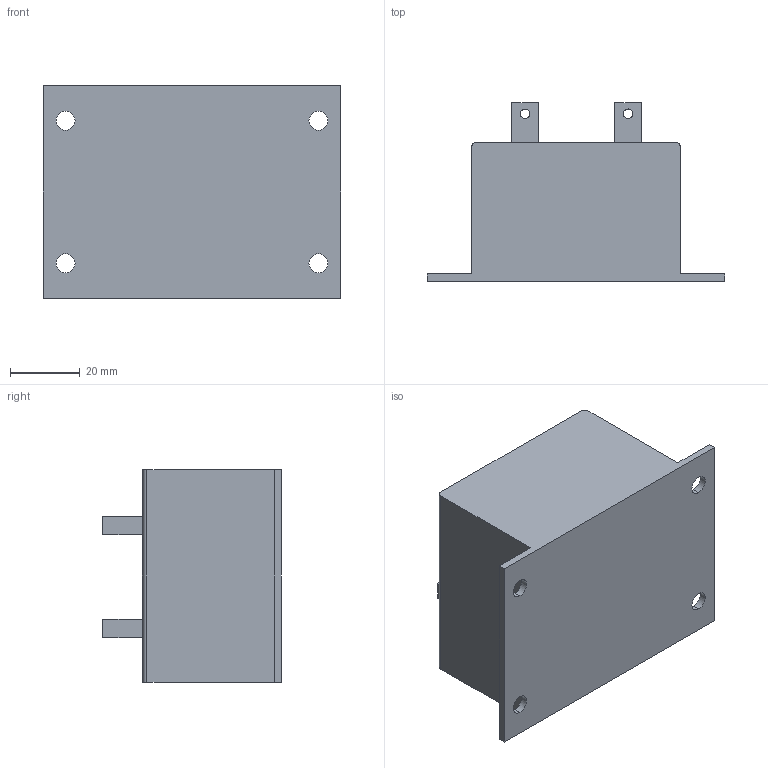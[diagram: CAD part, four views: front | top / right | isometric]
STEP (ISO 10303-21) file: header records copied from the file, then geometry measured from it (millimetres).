
FILE_DESCRIPTION (( 'STEP AP214' ), '1' );
FILE_NAME ('EEK55242-2R5M-330A.STEP', '2020-12-26T16:46:48', ( '' ), ( '' ), 'SwSTEP 2.0', 'SolidWorks 2015', '' );
FILE_SCHEMA (( 'AUTOMOTIVE_DESIGN' ));
Length unit declared in the file: millimetre
Products named in the file (1): EEK55242-2R5M-330A
Bounding box: 85.45 x 51.33 x 60.95 mm (x, y, z)
Volume: 149411.6 mm3; surface area: 20698.2 mm2
Topology: 1 solids, 1 shells, 34 faces, 90 edges, 60 vertices
Faces by surface type: plane 20, cylinder 14
Entity records: 1120 total; most frequent: DIRECTION 188, CARTESIAN_POINT 185, ORIENTED_EDGE 180, EDGE_CURVE 90, AXIS2_PLACEMENT_3D 63, LINE 62, VECTOR 62, VERTEX_POINT 60
